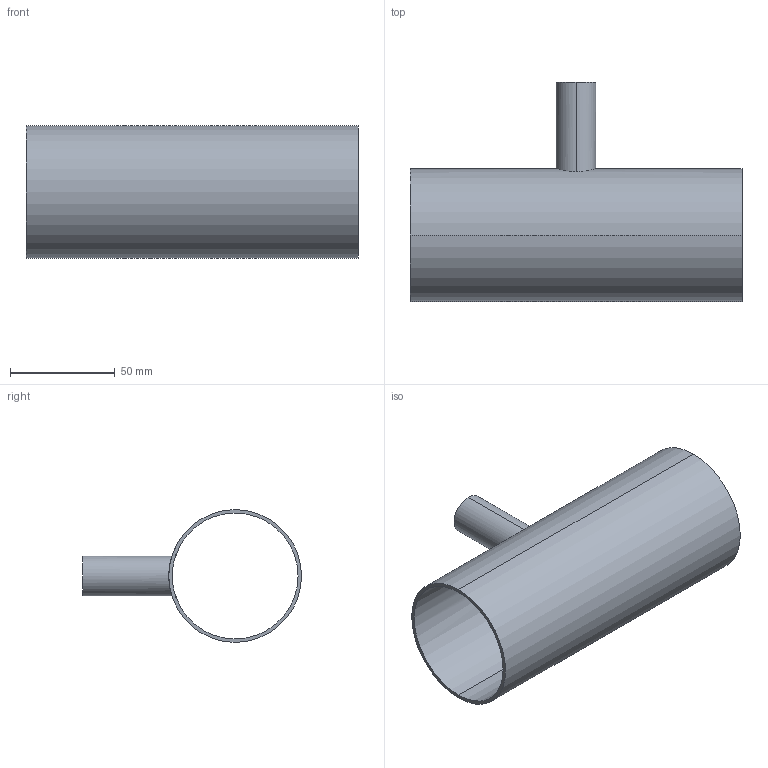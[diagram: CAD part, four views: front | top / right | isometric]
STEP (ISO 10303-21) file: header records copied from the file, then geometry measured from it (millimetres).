
FILE_DESCRIPTION (( 'STEP AP214' ), '1' );
FILE_NAME ('TE7RWWW6L2.5x.75-...STEP', '2016-05-24T04:16:52', ( 'eran' ), ( '' ), 'SwSTEP 2.0', 'SolidWorks 2016', '' );
FILE_SCHEMA (( 'AUTOMOTIVE_DESIGN' ));
Length unit declared in the file: millimetre
Products named in the file (1): TE7RWWW6L2.5x.75-..
Bounding box: 158.8 x 104.75 x 63.5 mm (x, y, z)
Volume: 54363.9 mm3; surface area: 66619.3 mm2
Topology: 1 solids, 1 shells, 11 faces, 24 edges, 16 vertices
Faces by surface type: cylinder 8, plane 3
Entity records: 524 total; most frequent: CARTESIAN_POINT 232, DIRECTION 56, ORIENTED_EDGE 48, AXIS2_PLACEMENT_3D 24, EDGE_CURVE 24, VERTEX_POINT 16, EDGE_LOOP 16, CIRCLE 12
